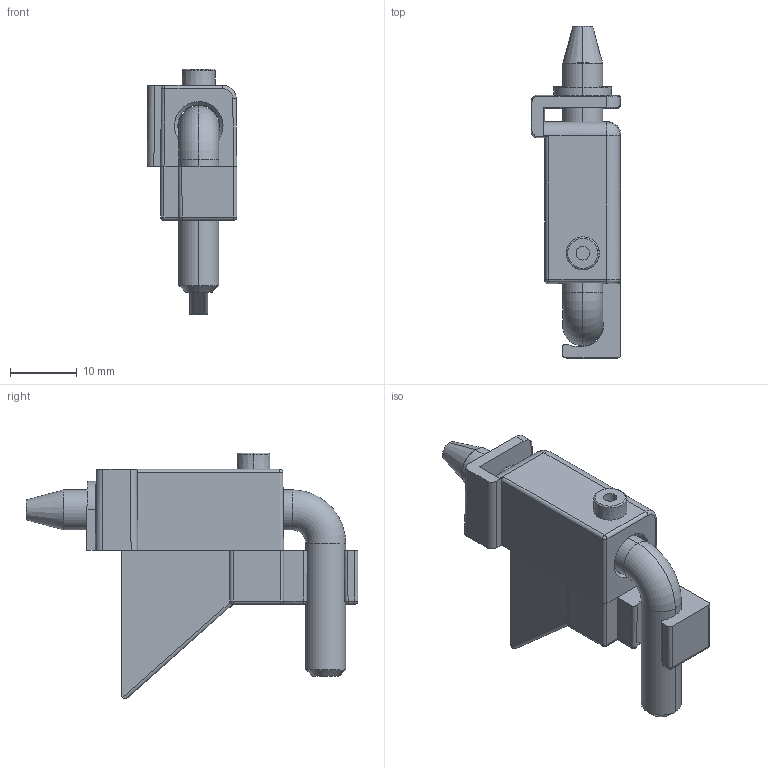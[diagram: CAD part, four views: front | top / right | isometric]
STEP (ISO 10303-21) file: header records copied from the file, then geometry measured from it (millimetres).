
FILE_DESCRIPTION (( 'STEP AP214' ), '1' );
FILE_NAME ('3.ST96.002.STEP', '2025-06-03T07:12:27', ( '' ), ( '' ), 'SwSTEP 2.0', 'SolidWorks 2021', '' );
FILE_SCHEMA (( 'AUTOMOTIVE_DESIGN' ));
Length unit declared in the file: millimetre
Products named in the file (3): 3.ST96.001.02_B; 3.ST96.002; 3.ST96.002.01_A
Assembly tree (2 placements, depth 2):
  3.ST96.002
    3.ST96.002.01_A
    3.ST96.001.02_B
Bounding box: 13.49 x 49.84 x 36.9 mm (x, y, z)
Volume: 6644.2 mm3; surface area: 4994.3 mm2
Topology: 2 solids, 2 shells, 113 faces, 268 edges, 157 vertices
Faces by surface type: cylinder 42, plane 37, torus 9, cone 9, sphere 9, bspline 7
Entity records: 3745 total; most frequent: CARTESIAN_POINT 996, ORIENTED_EDGE 526, DIRECTION 510, EDGE_CURVE 263, AXIS2_PLACEMENT_3D 190, VERTEX_POINT 157, VECTOR 130, LINE 130
